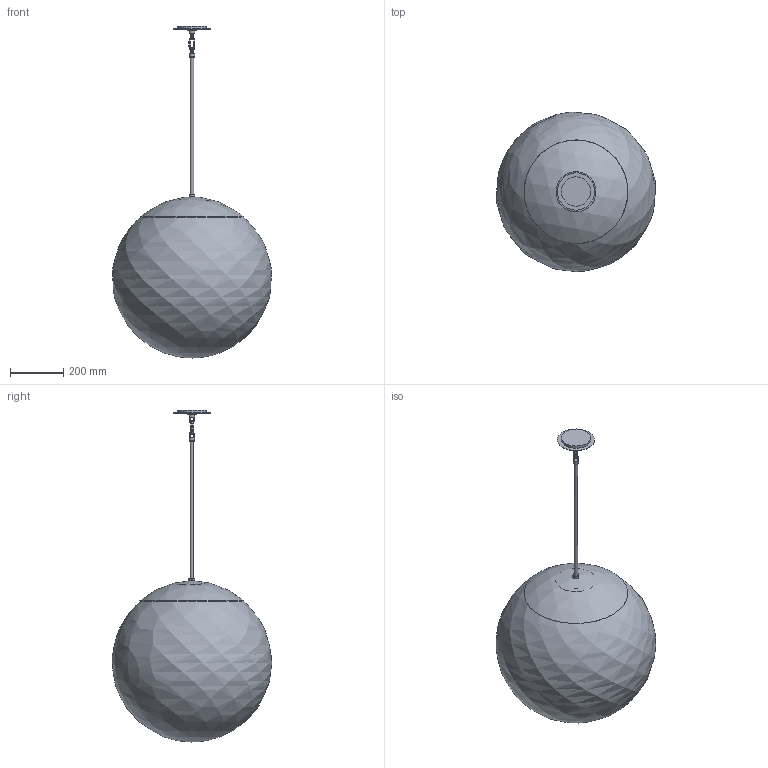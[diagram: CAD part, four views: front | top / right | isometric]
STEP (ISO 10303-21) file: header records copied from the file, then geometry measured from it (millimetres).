
FILE_DESCRIPTION(/* description */ (''),/* implementation_level */ '2;1');
FILE_NAME(/* name */ 'T:\B485 Opal Pendant 600\Pliki bryłowe handlowe\B485 Glass Globe Opal 600 3D files_na stronę\B485 Glass Globe Opal 600.stp',/* time_stamp */ '2022-02-02T16:00:16+01:00',/* author */ ('Mariusz Awariusz'),/* organization */ (''),/* preprocessor_version */ 'ST-DEVELOPER v18.1',/* originating_system */ 'Autodesk Inventor 2022',/* authorisation */ '');
FILE_SCHEMA (('AUTOMOTIVE_DESIGN { 1 0 10303 214 3 1 1 }'));
Length unit declared in the file: millimetre
Products named in the file (1): B485 Opal Pendant 600 CE v3_na potrzeby plików 3D_2_jako część_
korpusy bryłowe
Bounding box: 597.79 x 599.36 x 1247.21 mm (x, y, z)
Volume: 4771060.3 mm3; surface area: 2586353.8 mm2
Topology: 15 solids, 16 shells, 212 faces, 466 edges, 281 vertices
Faces by surface type: plane 103, cylinder 67, cone 24, torus 12, sphere 4, bspline 2
Full cylindrical faces by diameter (mm): 5 x5, 10 x1, 13 x1, 14.6 x1, 16 x2, 16.2 x1, 20 x2, 22 x1, 34.5 x1, 36 x1, 110 x1, 140 x1, 150.221 x1
Entity records: 5862 total; most frequent: CARTESIAN_POINT 1136, DIRECTION 1043, ORIENTED_EDGE 924, EDGE_CURVE 462, AXIS2_PLACEMENT_3D 410, VERTEX_POINT 281, LINE 223, VECTOR 223
